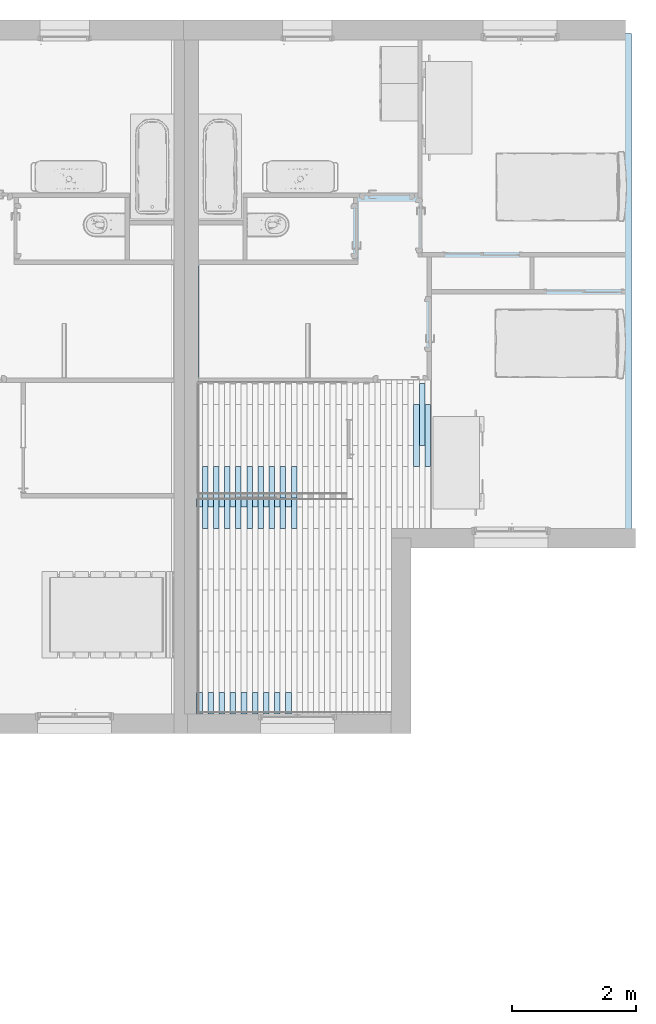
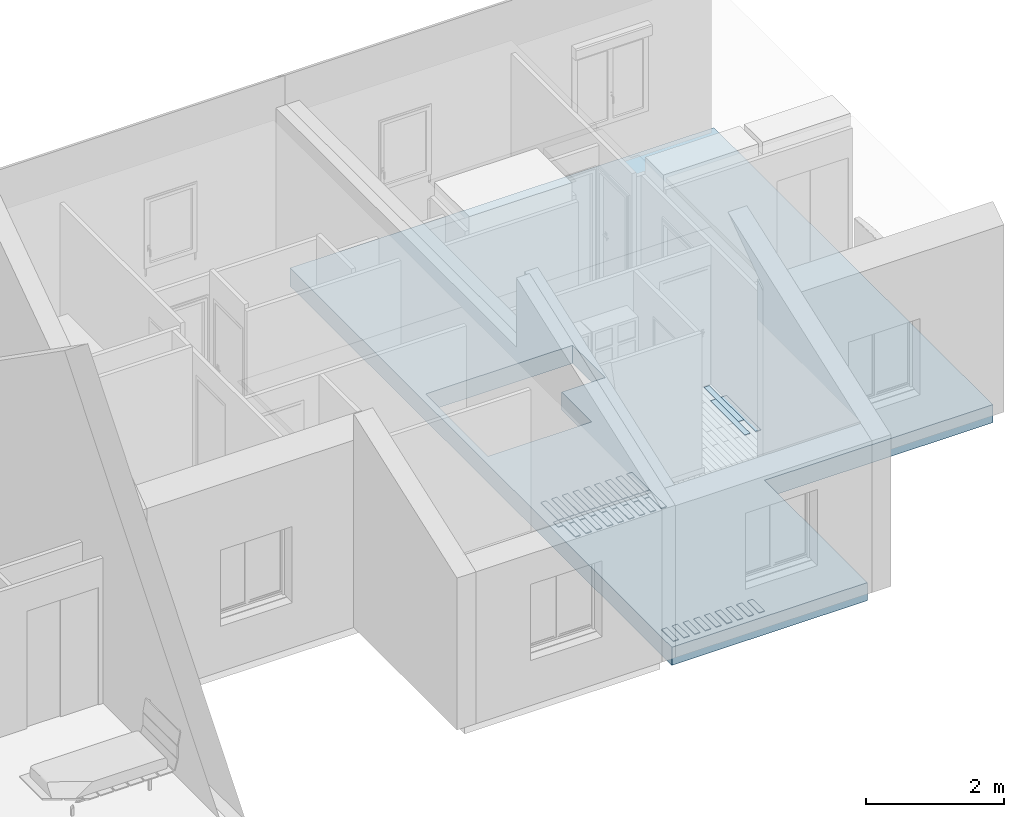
# One storey, part 5 of 61: 40 slabs, 1 opening.
"""IFC2X3 building model written with IfcOpenShell, lengths in metres."""

import ifcopenshell
import ifcopenshell.guid

model = None  # the IFC model being written
_history = None  # IfcOwnerHistory: only IFC2X3 demands one
_inside = {}  # id of a spatial element -> (the spatial element, [elements in it])
_under = {}  # id of a project, library or spatial element -> (it, [spatial elements below it])
_declared = {}  # id of a project -> (the project, [libraries it declares])
_typed = {}  # id of a type object -> (the type object, [elements of that type])
_made_of = {}  # id of a material, layer set ... -> (it, [elements and type objects made of it])


def new_model(schema):
    """Start an empty IFC model of exactly this schema.

    Asked for "IFC4X3", IfcOpenShell would pick the latest addendum, in which some entities
    have other attributes; the version numbers below select the first issue.
    IFC2X3 requires an IfcOwnerHistory on every rooted entity: one is made here for all.
    """
    global model, _history
    if schema == "IFC4X3":
        model = ifcopenshell.file(schema_version=(4, 3, 0, 0))
    else:
        model = ifcopenshell.file(schema=schema)
    _inside.clear()
    _under.clear()
    _declared.clear()
    _typed.clear()
    _made_of.clear()
    _history = None
    if model.schema == "IFC2X3":
        org = make("IfcOrganization", Name="unknown")
        user = make(
            "IfcPersonAndOrganization",
            ThePerson=make("IfcPerson", FamilyName="unknown"),
            TheOrganization=org,
        )
        app = make(
            "IfcApplication",
            ApplicationDeveloper=org,
            Version="unknown",
            ApplicationFullName="unknown",
            ApplicationIdentifier="unknown",
        )
        _history = make(
            "IfcOwnerHistory",
            OwningUser=user,
            OwningApplication=app,
            ChangeAction="ADDED",
            CreationDate=0,
        )
    return model


def make(cls, **values):
    """One entity of the class cls with the attributes given. An attribute that is None is left unset."""
    return model.create_entity(
        cls, **{name: value for name, value in values.items() if value is not None}
    )


def entity(cls, *values):
    """Any entity or typed value of the class cls, its attributes in the order of the schema. None: left unset."""
    e = model.create_entity(cls)
    for i, value in enumerate(values):
        if value is not None:
            e[i] = value
    return e


def rooted(cls, **values):
    """An entity with a GlobalId (a new one), such as an element, a storey or a relation."""
    return make(cls, GlobalId=ifcopenshell.guid.new(), OwnerHistory=_history, **values)


def si_unit(unit_type, name, prefix=None):
    """IfcSIUnit, for example si_unit("LENGTHUNIT", "METRE", prefix="MILLI")."""
    return make("IfcSIUnit", UnitType=unit_type, Prefix=prefix, Name=name)


def converted_unit(unit_type, name, factor, base, dimensions=None, offset=None):
    """IfcConversionBasedUnit, such as the inch: factor (a typed value) times the base unit."""
    return make(
        "IfcConversionBasedUnit"
        if offset is None
        else "IfcConversionBasedUnitWithOffset",
        ConversionOffset=offset,
        Dimensions=None
        if dimensions is None
        else entity("IfcDimensionalExponents", *dimensions),
        UnitType=unit_type,
        Name=name,
        ConversionFactor=make(
            "IfcMeasureWithUnit", ValueComponent=factor, UnitComponent=base
        ),
    )


def derived_unit(unit_type, elements):
    """IfcDerivedUnit: a product of units, each with its exponent."""
    return make(
        "IfcDerivedUnit",
        Elements=[
            make("IfcDerivedUnitElement", Unit=unit, Exponent=power)
            for unit, power in elements
        ],
        UnitType=unit_type,
    )


def assignment(units):
    """IfcUnitAssignment: the units of a project."""
    return None if units is None else make("IfcUnitAssignment", Units=units)


def point(xyz):
    """IfcCartesianPoint."""
    return None if xyz is None else make("IfcCartesianPoint", Coordinates=xyz)


def direction(xyz):
    """IfcDirection."""
    return None if xyz is None else make("IfcDirection", DirectionRatios=xyz)


def frame(location, z_axis=None, x_axis=None):
    """IfcAxis2Placement3D, a coordinate frame: its origin and axes. An axis left out is left unset."""
    return make(
        "IfcAxis2Placement3D",
        Location=point(location),
        Axis=direction(z_axis),
        RefDirection=direction(x_axis),
    )


def frame_2d(location, x_axis=None):
    """IfcAxis2Placement2D, a coordinate frame in the plane: its origin and x axis."""
    return make(
        "IfcAxis2Placement2D", Location=point(location), RefDirection=direction(x_axis)
    )


def origin():
    """The frame at (0, 0, 0) with its axes left unset."""
    return frame((0.0, 0.0, 0.0))


def place(relative_to, where):
    """IfcLocalPlacement: puts the frame where relative to a parent placement (None: the world)."""
    return make(
        "IfcLocalPlacement", PlacementRelTo=relative_to, RelativePlacement=where
    )


def context(
    kind, dimensions, precision=None, world=None, true_north=None, identifier=None
):
    """IfcGeometricRepresentationContext, for example the 3D "Model" context."""
    return make(
        "IfcGeometricRepresentationContext",
        ContextIdentifier=identifier,
        ContextType=kind,
        CoordinateSpaceDimension=dimensions,
        Precision=precision,
        WorldCoordinateSystem=world,
        TrueNorth=true_north,
    )


def subcontext(parent, identifier, kind, view, scale=None):
    """IfcGeometricRepresentationSubContext, for example "Body" below "Model"."""
    return make(
        "IfcGeometricRepresentationSubContext",
        ContextIdentifier=identifier,
        ContextType=kind,
        ParentContext=parent,
        TargetScale=scale,
        TargetView=view,
    )


def project(units=None, contexts=None):
    """IfcProject with its units and contexts."""
    return rooted(
        "IfcProject",
        Name="project",
        RepresentationContexts=contexts,
        UnitsInContext=assignment(units),
    )


def spatial(cls, under=None, at=None, **own):
    """A site, building, storey or space (cls), placed at a placement, below another one or the project."""
    s = rooted(cls, ObjectPlacement=at, **own)
    if under is not None:
        _under.setdefault(under.id(), (under, []))[1].append(s)
    return s


def polyline(points):
    """IfcPolyline through the points."""
    return make("IfcPolyline", Points=[point(p) for p in points])


def profile(cls, at=None, kind="AREA", **sizes):
    """A parametric profile (cls). Its sizes go by their IFC names, for example OverallWidth=200.0."""
    return make(cls, ProfileType=kind, Position=at, **sizes)


def rectangle(**sizes):
    """IfcRectangleProfileDef."""
    return profile("IfcRectangleProfileDef", **sizes)


def outline(outer, holes=None, kind="AREA"):
    """IfcArbitraryClosedProfileDef: a profile drawn as a closed curve; with holes, ...WithVoids."""
    if holes is None:
        return make("IfcArbitraryClosedProfileDef", ProfileType=kind, OuterCurve=outer)
    return make(
        "IfcArbitraryProfileDefWithVoids",
        ProfileType=kind,
        OuterCurve=outer,
        InnerCurves=holes,
    )


def extrude(swept, where, along, depth):
    """IfcExtrudedAreaSolid: the profile swept, set in the frame where, extruded along a direction by depth."""
    return make(
        "IfcExtrudedAreaSolid",
        SweptArea=swept,
        Position=where,
        ExtrudedDirection=direction(along),
        Depth=depth,
    )


def shape(context_of_items, identifier, shape_type, items):
    """IfcShapeRepresentation: the items that make up one representation, for example the "Body"."""
    return make(
        "IfcShapeRepresentation",
        ContextOfItems=context_of_items,
        RepresentationIdentifier=identifier,
        RepresentationType=shape_type,
        Items=items,
    )


def material(Name=None, Category=None):
    """IfcMaterial."""
    return make("IfcMaterial", Name=Name, Category=Category)


def layer(
    of_material, thickness, ventilated=None, Name=None, Category=None, Priority=None
):
    """IfcMaterialLayer: one layer of a wall or slab, of a material (None: an air gap)."""
    return make(
        "IfcMaterialLayer",
        Material=of_material,
        LayerThickness=thickness,
        IsVentilated=ventilated,
        Name=Name,
        Category=Category,
        Priority=Priority,
    )


def layer_set(layers, Name=None):
    """IfcMaterialLayerSet."""
    return make("IfcMaterialLayerSet", MaterialLayers=layers, LayerSetName=Name)


def layer_usage(for_layer_set, set_direction, sense, offset, extent=None):
    """IfcMaterialLayerSetUsage: how a layer set lies in its element."""
    return make(
        "IfcMaterialLayerSetUsage",
        ForLayerSet=for_layer_set,
        LayerSetDirection=set_direction,
        DirectionSense=sense,
        OffsetFromReferenceLine=offset,
        ReferenceExtent=extent,
    )


def made_of(thing, what):
    """Note that an element or type object is made of a material, layer set ...; save() writes the relation."""
    if what is not None:
        _made_of.setdefault(what.id(), (what, []))[1].append(thing)
    return thing


def type_object(cls, material=None, **own):
    """A type object (cls), such as IfcWallType, which elements share."""
    return made_of(rooted(cls, **own), material)


def element(
    cls,
    number,
    at=None,
    inside=None,
    cuts=None,
    type_object=None,
    material=None,
    context=None,
    identifier="Body",
    shape_type=None,
    held_by="IfcProductDefinitionShape",
    body=None,
    shapes=None,
    **own,
):
    """One element of the class cls, such as IfcWall. Its Tag is "e" and its number.

    at: its placement. inside: the storey or other place that contains it. cuts: it is an
    opening in that element (IfcRelVoidsElement). A single representation is given by context,
    identifier, shape_type and body (its items); several are given by shapes. held_by: the class
    of the entity that holds the representations. save() writes the other relations.
    """
    e = rooted(cls, Tag="e%d" % number, ObjectPlacement=at, **own)
    if body is not None:
        shapes = [shape(context, identifier, shape_type, body)]
    if shapes is not None:
        e.Representation = make(held_by, Representations=shapes)
    if inside is not None:
        _inside.setdefault(inside.id(), (inside, []))[1].append(e)
    if cuts is not None:
        rooted(
            "IfcRelVoidsElement", RelatingBuildingElement=cuts, RelatedOpeningElement=e
        )
    if type_object is not None:
        _typed.setdefault(type_object.id(), (type_object, []))[1].append(e)
    return made_of(e, material)


def aggregate(whole, parts):
    """IfcRelAggregates: a whole, such as a stair, and the parts it consists of."""
    return rooted("IfcRelAggregates", RelatingObject=whole, RelatedObjects=parts)


def save(model, path):
    """Write the relations noted so far, then the file.

    IfcRelAggregates (storeys below a building ...), IfcRelContainedInSpatialStructure (elements
    in a storey), IfcRelDefinesByType, IfcRelAssociatesMaterial and IfcRelDeclares: one each for
    every whole, place, type object, material and project.
    """
    for whole, parts in _under.values():
        aggregate(whole, parts)
    for where, things in _inside.values():
        rooted(
            "IfcRelContainedInSpatialStructure",
            RelatedElements=things,
            RelatingStructure=where,
        )
    for kind, things in _typed.values():
        rooted("IfcRelDefinesByType", RelatedObjects=things, RelatingType=kind)
    for what, things in _made_of.values():
        rooted("IfcRelAssociatesMaterial", RelatedObjects=things, RelatingMaterial=what)
    for by, libraries in _declared.values():
        rooted("IfcRelDeclares", RelatingContext=by, RelatedDefinitions=libraries)
    model.write(path)


model = new_model("IFC2X3")

# Units and contexts
model_context = context("Model", 3, precision=1e-05, world=origin(), true_north=direction((6.12303176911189e-17, 1.0)))
body_context = subcontext(model_context, "Body", "Model", "MODEL_VIEW")
ifc_project = project(units=[si_unit("LENGTHUNIT", "METRE"), si_unit("AREAUNIT", "SQUARE_METRE"), si_unit("VOLUMEUNIT", "CUBIC_METRE"), converted_unit("PLANEANGLEUNIT", "DEGREE", entity("IfcRatioMeasure", 0.0174532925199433), si_unit("PLANEANGLEUNIT", "RADIAN"), dimensions=[0, 0, 0, 0, 0, 0, 0]), si_unit("MASSUNIT", "GRAM", prefix="KILO"), derived_unit("MASSDENSITYUNIT", [(si_unit("MASSUNIT", "GRAM", prefix="KILO"), 1), (si_unit("LENGTHUNIT", "METRE"), -3)]), si_unit("TIMEUNIT", "SECOND"), si_unit("FREQUENCYUNIT", "HERTZ"), si_unit("THERMODYNAMICTEMPERATUREUNIT", "DEGREE_CELSIUS"), derived_unit("THERMALTRANSMITTANCEUNIT", [(si_unit("MASSUNIT", "GRAM", prefix="KILO"), 1), (si_unit("THERMODYNAMICTEMPERATUREUNIT", "KELVIN"), -1), (si_unit("TIMEUNIT", "SECOND"), -3)]), derived_unit("VOLUMETRICFLOWRATEUNIT", [(si_unit("LENGTHUNIT", "METRE"), 3), (si_unit("TIMEUNIT", "SECOND"), -1)]), si_unit("ELECTRICCURRENTUNIT", "AMPERE"), si_unit("ELECTRICVOLTAGEUNIT", "VOLT"), si_unit("POWERUNIT", "WATT"), si_unit("FORCEUNIT", "NEWTON", prefix="KILO"), si_unit("ILLUMINANCEUNIT", "LUX"), si_unit("LUMINOUSFLUXUNIT", "LUMEN"), si_unit("LUMINOUSINTENSITYUNIT", "CANDELA"), derived_unit("USERDEFINED", [(si_unit("MASSUNIT", "GRAM", prefix="KILO"), -1), (si_unit("LENGTHUNIT", "METRE"), -2), (si_unit("TIMEUNIT", "SECOND"), 3), (si_unit("LUMINOUSFLUXUNIT", "LUMEN"), 1)]), derived_unit("LINEARVELOCITYUNIT", [(si_unit("LENGTHUNIT", "METRE"), 1), (si_unit("TIMEUNIT", "SECOND"), -1)]), si_unit("PRESSUREUNIT", "PASCAL"), derived_unit("USERDEFINED", [(si_unit("LENGTHUNIT", "METRE"), -2), (si_unit("MASSUNIT", "GRAM", prefix="KILO"), 1), (si_unit("TIMEUNIT", "SECOND"), -2)])], contexts=[model_context])

# Site, building, storey
site_placement = place(None, origin())
site = spatial("IfcSite", under=ifc_project, at=site_placement, Name="Surface", CompositionType="ELEMENT")
building_placement = place(site_placement, origin())
building = spatial("IfcBuilding", under=site, at=building_placement, CompositionType="ELEMENT")
storey_placement = place(building_placement, frame((0.0, 0.0, 2.82)))
storey = spatial("IfcBuildingStorey", under=building, at=storey_placement, Name="ETAGE", CompositionType="ELEMENT", Elevation=2.82)

# Slab, opening
ifc_material_1 = material(Name="Béton")
ifc_layer_1 = layer(ifc_material_1, 0.2)
ifc_material_2 = material(Name="Isolant")
ifc_layer_2 = layer(ifc_material_2, 0.1)
ifc_material_3 = material(Name="Plastique - Blanc")
ifc_layer_3 = layer(ifc_material_3, 0.02)
ifc_layer_set_1 = layer_set([ifc_layer_1, ifc_layer_2, ifc_layer_3], Name="Sol:Dalle Béton - 20 cm  + FAUX PLAFOND")
ifc_layer_usage_1 = layer_usage(ifc_layer_set_1, "AXIS3", "POSITIVE", 0.0)
slab_type_1 = type_object("IfcSlabType", Name="Sol:Dalle Béton - 20 cm  + FAUX PLAFOND", PredefinedType="FLOOR", material=ifc_layer_set_1)
slab_1_placement = place(storey_placement, frame((83.8267857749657, 81.1575239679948, -0.3)))
slab_1 = element("IfcSlab", 1, at=slab_1_placement, inside=storey, type_object=slab_type_1, material=ifc_layer_usage_1, Name="Sol:Dalle Béton - 20 cm  + FAUX PLAFOND", ObjectType="Sol:Dalle Béton - 20 cm  + FAUX PLAFOND", PredefinedType="FLOOR", context=body_context, shape_type="SweptSolid", body=[
    extrude(outline(polyline([(-3.55413147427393, 5.545), (-3.55413147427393, -5.545), (-0.274131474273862, -5.54499999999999), (-0.274131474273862, -2.55499999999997), (3.55413147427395, -2.55499999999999), (3.55413147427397, 5.545), (-3.55413147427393, 5.545)])), frame((3.55413147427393, 5.545, 0.32)), (0.0, 0.0, -1.0), 0.32),
])
opening_placement = place(storey_placement, frame((83.8267857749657, 81.1575239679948, -0.3)))
element("IfcOpeningElement", 2, at=opening_placement, cuts=slab_1, ObjectType="Opening", context=body_context, shape_type="SweptSolid", body=[
    extrude(outline(polyline([(3.44496571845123, 1.7966805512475), (0.977465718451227, 1.7966805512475), (0.977465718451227, 0.852480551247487), (1.70746571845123, 0.852480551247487), (1.70746571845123, -0.0199999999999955), (3.44496571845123, -0.0199999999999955), (3.44496571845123, 1.7966805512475)])), frame((3.55413147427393, 5.545, 0.32), z_axis=(0.0, 0.0, -1.0), x_axis=(-1.0, 0.0, 0.0)), (0.0, 0.0, 1.0), 0.32),
])

# Slabs
ifc_material_4 = material(Name="PARQUET BAMBOU")
ifc_layer_4 = layer(ifc_material_4, 0.01)
ifc_layer_set_2 = layer_set([ifc_layer_4], Name="Sol:LAME DE BAMBOU")
ifc_layer_usage_2 = layer_usage(ifc_layer_set_2, "AXIS3", "POSITIVE", 0.0)
slab_type_2 = type_object("IfcSlabType", Name="Sol:LAME DE BAMBOU", PredefinedType="FLOOR", material=ifc_layer_set_2)
slab_2_placement = place(storey_placement, origin())
element("IfcSlab", 3, at=slab_2_placement, inside=storey, type_object=slab_type_2, material=ifc_layer_usage_2, Name="Sol:LAME DE BAMBOU", ObjectType="Sol:LAME DE BAMBOU", PredefinedType="FLOOR", context=body_context, shape_type="SweptSolid", body=[
    extrude(rectangle(XDim=0.479580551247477, YDim=0.0899999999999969, at=frame_2d((8.65973959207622e-15, 8.66320903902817e-15), x_axis=(1.0, 0.0))), frame((84.0360898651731, 84.4873142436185, 0.05), z_axis=(0.0, 0.0, -1.0), x_axis=(0.0, 1.0, 0.0)), (0.0, 0.0, 1.0), 0.00999999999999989),
])
ifc_layer_usage_3 = layer_usage(ifc_layer_set_2, "AXIS3", "POSITIVE", 0.0)
slab_type_3 = type_object("IfcSlabType", Name="Sol:LAME DE BAMBOU", PredefinedType="FLOOR", material=ifc_layer_set_2)
slab_3_placement = place(storey_placement, origin())
element("IfcSlab", 4, at=slab_3_placement, inside=storey, type_object=slab_type_3, material=ifc_layer_usage_3, Name="Sol:LAME DE BAMBOU", ObjectType="Sol:LAME DE BAMBOU", PredefinedType="FLOOR", context=body_context, shape_type="SweptSolid", body=[
    extrude(rectangle(XDim=0.339999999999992, YDim=0.0899999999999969, at=frame_2d((0.0, 8.66320903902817e-15), x_axis=(1.0, 0.0))), frame((84.1260898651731, 81.4175239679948, 0.05), z_axis=(0.0, 0.0, -1.0), x_axis=(0.0, 1.0, 0.0)), (0.0, 0.0, 1.0), 0.00999999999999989),
])
ifc_layer_usage_4 = layer_usage(ifc_layer_set_2, "AXIS3", "POSITIVE", 0.0)
slab_type_4 = type_object("IfcSlabType", Name="Sol:LAME DE BAMBOU", PredefinedType="FLOOR", material=ifc_layer_set_2)
slab_4_placement = place(storey_placement, origin())
element("IfcSlab", 5, at=slab_4_placement, inside=storey, type_object=slab_type_4, material=ifc_layer_usage_4, Name="Sol:LAME DE BAMBOU", ObjectType="Sol:LAME DE BAMBOU", PredefinedType="FLOOR", context=body_context, shape_type="SweptSolid", body=[
    extrude(rectangle(XDim=0.139570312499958, YDim=0.0899999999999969, at=frame_2d((8.65973959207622e-15, 8.66320903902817e-15), x_axis=(1.0, 0.0))), frame((84.1260898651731, 84.6573091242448, 0.05), z_axis=(0.0, 0.0, -1.0), x_axis=(0.0, 1.0, 0.0)), (0.0, 0.0, 1.0), 0.00999999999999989),
])
ifc_layer_usage_5 = layer_usage(ifc_layer_set_2, "AXIS3", "POSITIVE", 0.0)
slab_type_5 = type_object("IfcSlabType", Name="Sol:LAME DE BAMBOU", PredefinedType="FLOOR", material=ifc_layer_set_2)
slab_5_placement = place(storey_placement, origin())
element("IfcSlab", 6, at=slab_5_placement, inside=storey, type_object=slab_type_5, material=ifc_layer_usage_5, Name="Sol:LAME DE BAMBOU", ObjectType="Sol:LAME DE BAMBOU", PredefinedType="FLOOR", context=body_context, shape_type="SweptSolid", body=[
    extrude(rectangle(XDim=0.479580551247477, YDim=0.0899999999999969, at=frame_2d((8.65973959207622e-15, -8.66320903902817e-15), x_axis=(1.0, 0.0))), frame((84.2160898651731, 84.4873142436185, 0.05), z_axis=(0.0, 0.0, -1.0), x_axis=(0.0, 1.0, 0.0)), (0.0, 0.0, 1.0), 0.00999999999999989),
])
ifc_layer_usage_6 = layer_usage(ifc_layer_set_2, "AXIS3", "POSITIVE", 0.0)
slab_type_6 = type_object("IfcSlabType", Name="Sol:LAME DE BAMBOU", PredefinedType="FLOOR", material=ifc_layer_set_2)
slab_6_placement = place(storey_placement, origin())
element("IfcSlab", 7, at=slab_6_placement, inside=storey, type_object=slab_type_6, material=ifc_layer_usage_6, Name="Sol:LAME DE BAMBOU", ObjectType="Sol:LAME DE BAMBOU", PredefinedType="FLOOR", context=body_context, shape_type="SweptSolid", body=[
    extrude(rectangle(XDim=0.339999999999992, YDim=0.0899999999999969, at=frame_2d((0.0, 8.66320903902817e-15), x_axis=(1.0, 0.0))), frame((84.3060898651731, 81.4175239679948, 0.05), z_axis=(0.0, 0.0, -1.0), x_axis=(0.0, 1.0, 0.0)), (0.0, 0.0, 1.0), 0.00999999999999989),
])
ifc_layer_usage_7 = layer_usage(ifc_layer_set_2, "AXIS3", "POSITIVE", 0.0)
slab_type_7 = type_object("IfcSlabType", Name="Sol:LAME DE BAMBOU", PredefinedType="FLOOR", material=ifc_layer_set_2)
slab_7_placement = place(storey_placement, origin())
element("IfcSlab", 8, at=slab_7_placement, inside=storey, type_object=slab_type_7, material=ifc_layer_usage_7, Name="Sol:LAME DE BAMBOU", ObjectType="Sol:LAME DE BAMBOU", PredefinedType="FLOOR", context=body_context, shape_type="SweptSolid", body=[
    extrude(rectangle(XDim=0.139570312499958, YDim=0.0899999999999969, at=frame_2d((8.65973959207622e-15, 8.66320903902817e-15), x_axis=(1.0, 0.0))), frame((84.3060898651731, 84.6573091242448, 0.05), z_axis=(0.0, 0.0, -1.0), x_axis=(0.0, 1.0, 0.0)), (0.0, 0.0, 1.0), 0.00999999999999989),
])
ifc_layer_usage_8 = layer_usage(ifc_layer_set_2, "AXIS3", "POSITIVE", 0.0)
slab_type_8 = type_object("IfcSlabType", Name="Sol:LAME DE BAMBOU", PredefinedType="FLOOR", material=ifc_layer_set_2)
slab_8_placement = place(storey_placement, origin())
element("IfcSlab", 9, at=slab_8_placement, inside=storey, type_object=slab_type_8, material=ifc_layer_usage_8, Name="Sol:LAME DE BAMBOU", ObjectType="Sol:LAME DE BAMBOU", PredefinedType="FLOOR", context=body_context, shape_type="SweptSolid", body=[
    extrude(rectangle(XDim=0.479580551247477, YDim=0.0899999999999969, at=frame_2d((8.65973959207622e-15, 8.66320903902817e-15), x_axis=(1.0, 0.0))), frame((84.3960898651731, 84.4873142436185, 0.05), z_axis=(0.0, 0.0, -1.0), x_axis=(0.0, 1.0, 0.0)), (0.0, 0.0, 1.0), 0.00999999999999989),
])
ifc_layer_usage_9 = layer_usage(ifc_layer_set_2, "AXIS3", "POSITIVE", 0.0)
slab_type_9 = type_object("IfcSlabType", Name="Sol:LAME DE BAMBOU", PredefinedType="FLOOR", material=ifc_layer_set_2)
slab_9_placement = place(storey_placement, origin())
element("IfcSlab", 10, at=slab_9_placement, inside=storey, type_object=slab_type_9, material=ifc_layer_usage_9, Name="Sol:LAME DE BAMBOU", ObjectType="Sol:LAME DE BAMBOU", PredefinedType="FLOOR", context=body_context, shape_type="SweptSolid", body=[
    extrude(rectangle(XDim=0.339999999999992, YDim=0.0899999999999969, at=frame_2d((0.0, 8.66320903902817e-15), x_axis=(1.0, 0.0))), frame((84.4860898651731, 81.4175239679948, 0.05), z_axis=(0.0, 0.0, -1.0), x_axis=(0.0, 1.0, 0.0)), (0.0, 0.0, 1.0), 0.00999999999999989),
])
ifc_layer_usage_10 = layer_usage(ifc_layer_set_2, "AXIS3", "POSITIVE", 0.0)
slab_type_10 = type_object("IfcSlabType", Name="Sol:LAME DE BAMBOU", PredefinedType="FLOOR", material=ifc_layer_set_2)
slab_10_placement = place(storey_placement, origin())
element("IfcSlab", 11, at=slab_10_placement, inside=storey, type_object=slab_type_10, material=ifc_layer_usage_10, Name="Sol:LAME DE BAMBOU", ObjectType="Sol:LAME DE BAMBOU", PredefinedType="FLOOR", context=body_context, shape_type="SweptSolid", body=[
    extrude(rectangle(XDim=0.139570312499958, YDim=0.0899999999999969, at=frame_2d((8.65973959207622e-15, 8.66320903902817e-15), x_axis=(1.0, 0.0))), frame((84.4860898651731, 84.6573091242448, 0.05), z_axis=(0.0, 0.0, -1.0), x_axis=(0.0, 1.0, 0.0)), (0.0, 0.0, 1.0), 0.00999999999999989),
])
ifc_layer_usage_11 = layer_usage(ifc_layer_set_2, "AXIS3", "POSITIVE", 0.0)
slab_type_11 = type_object("IfcSlabType", Name="Sol:LAME DE BAMBOU", PredefinedType="FLOOR", material=ifc_layer_set_2)
slab_11_placement = place(storey_placement, origin())
element("IfcSlab", 12, at=slab_11_placement, inside=storey, type_object=slab_type_11, material=ifc_layer_usage_11, Name="Sol:LAME DE BAMBOU", ObjectType="Sol:LAME DE BAMBOU", PredefinedType="FLOOR", context=body_context, shape_type="SweptSolid", body=[
    extrude(rectangle(XDim=0.479580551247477, YDim=0.0899999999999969, at=frame_2d((8.65973959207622e-15, -8.66320903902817e-15), x_axis=(1.0, 0.0))), frame((84.5760898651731, 84.4873142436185, 0.05), z_axis=(0.0, 0.0, -1.0), x_axis=(0.0, 1.0, 0.0)), (0.0, 0.0, 1.0), 0.00999999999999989),
])
ifc_layer_usage_12 = layer_usage(ifc_layer_set_2, "AXIS3", "POSITIVE", 0.0)
slab_type_12 = type_object("IfcSlabType", Name="Sol:LAME DE BAMBOU", PredefinedType="FLOOR", material=ifc_layer_set_2)
slab_12_placement = place(storey_placement, origin())
element("IfcSlab", 13, at=slab_12_placement, inside=storey, type_object=slab_type_12, material=ifc_layer_usage_12, Name="Sol:LAME DE BAMBOU", ObjectType="Sol:LAME DE BAMBOU", PredefinedType="FLOOR", context=body_context, shape_type="SweptSolid", body=[
    extrude(rectangle(XDim=0.339999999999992, YDim=0.0899999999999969, at=frame_2d((0.0, 8.66320903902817e-15), x_axis=(1.0, 0.0))), frame((84.6660898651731, 81.4175239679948, 0.05), z_axis=(0.0, 0.0, -1.0), x_axis=(0.0, 1.0, 0.0)), (0.0, 0.0, 1.0), 0.00999999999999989),
])
ifc_layer_usage_13 = layer_usage(ifc_layer_set_2, "AXIS3", "POSITIVE", 0.0)
slab_type_13 = type_object("IfcSlabType", Name="Sol:LAME DE BAMBOU", PredefinedType="FLOOR", material=ifc_layer_set_2)
slab_13_placement = place(storey_placement, origin())
element("IfcSlab", 14, at=slab_13_placement, inside=storey, type_object=slab_type_13, material=ifc_layer_usage_13, Name="Sol:LAME DE BAMBOU", ObjectType="Sol:LAME DE BAMBOU", PredefinedType="FLOOR", context=body_context, shape_type="SweptSolid", body=[
    extrude(rectangle(XDim=0.139570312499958, YDim=0.0899999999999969, at=frame_2d((8.65973959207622e-15, 8.66320903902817e-15), x_axis=(1.0, 0.0))), frame((84.6660898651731, 84.6573091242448, 0.05), z_axis=(0.0, 0.0, -1.0), x_axis=(0.0, 1.0, 0.0)), (0.0, 0.0, 1.0), 0.00999999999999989),
])
ifc_layer_usage_14 = layer_usage(ifc_layer_set_2, "AXIS3", "POSITIVE", 0.0)
slab_type_14 = type_object("IfcSlabType", Name="Sol:LAME DE BAMBOU", PredefinedType="FLOOR", material=ifc_layer_set_2)
slab_14_placement = place(storey_placement, origin())
element("IfcSlab", 15, at=slab_14_placement, inside=storey, type_object=slab_type_14, material=ifc_layer_usage_14, Name="Sol:LAME DE BAMBOU", ObjectType="Sol:LAME DE BAMBOU", PredefinedType="FLOOR", context=body_context, shape_type="SweptSolid", body=[
    extrude(rectangle(XDim=0.479580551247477, YDim=0.0899999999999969, at=frame_2d((8.65973959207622e-15, 8.66320903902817e-15), x_axis=(1.0, 0.0))), frame((84.7560898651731, 84.4873142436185, 0.05), z_axis=(0.0, 0.0, -1.0), x_axis=(0.0, 1.0, 0.0)), (0.0, 0.0, 1.0), 0.00999999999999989),
])
ifc_layer_usage_15 = layer_usage(ifc_layer_set_2, "AXIS3", "POSITIVE", 0.0)
slab_type_15 = type_object("IfcSlabType", Name="Sol:LAME DE BAMBOU", PredefinedType="FLOOR", material=ifc_layer_set_2)
slab_15_placement = place(storey_placement, origin())
element("IfcSlab", 16, at=slab_15_placement, inside=storey, type_object=slab_type_15, material=ifc_layer_usage_15, Name="Sol:LAME DE BAMBOU", ObjectType="Sol:LAME DE BAMBOU", PredefinedType="FLOOR", context=body_context, shape_type="SweptSolid", body=[
    extrude(rectangle(XDim=0.339999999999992, YDim=0.0899999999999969, at=frame_2d((0.0, 8.66320903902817e-15), x_axis=(1.0, 0.0))), frame((84.8460898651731, 81.4175239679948, 0.05), z_axis=(0.0, 0.0, -1.0), x_axis=(0.0, 1.0, 0.0)), (0.0, 0.0, 1.0), 0.00999999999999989),
])
ifc_layer_usage_16 = layer_usage(ifc_layer_set_2, "AXIS3", "POSITIVE", 0.0)
slab_type_16 = type_object("IfcSlabType", Name="Sol:LAME DE BAMBOU", PredefinedType="FLOOR", material=ifc_layer_set_2)
slab_16_placement = place(storey_placement, origin())
element("IfcSlab", 17, at=slab_16_placement, inside=storey, type_object=slab_type_16, material=ifc_layer_usage_16, Name="Sol:LAME DE BAMBOU", ObjectType="Sol:LAME DE BAMBOU", PredefinedType="FLOOR", context=body_context, shape_type="SweptSolid", body=[
    extrude(rectangle(XDim=0.139570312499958, YDim=0.0899999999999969, at=frame_2d((8.65973959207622e-15, 8.66320903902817e-15), x_axis=(1.0, 0.0))), frame((84.8460898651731, 84.6573091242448, 0.05), z_axis=(0.0, 0.0, -1.0), x_axis=(0.0, 1.0, 0.0)), (0.0, 0.0, 1.0), 0.00999999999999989),
])
ifc_layer_usage_17 = layer_usage(ifc_layer_set_2, "AXIS3", "POSITIVE", 0.0)
slab_type_17 = type_object("IfcSlabType", Name="Sol:LAME DE BAMBOU", PredefinedType="FLOOR", material=ifc_layer_set_2)
slab_17_placement = place(storey_placement, origin())
element("IfcSlab", 18, at=slab_17_placement, inside=storey, type_object=slab_type_17, material=ifc_layer_usage_17, Name="Sol:LAME DE BAMBOU", ObjectType="Sol:LAME DE BAMBOU", PredefinedType="FLOOR", context=body_context, shape_type="SweptSolid", body=[
    extrude(rectangle(XDim=0.479580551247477, YDim=0.0899999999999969, at=frame_2d((8.65973959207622e-15, -8.66320903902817e-15), x_axis=(1.0, 0.0))), frame((84.9360898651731, 84.4873142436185, 0.05), z_axis=(0.0, 0.0, -1.0), x_axis=(0.0, 1.0, 0.0)), (0.0, 0.0, 1.0), 0.00999999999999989),
])
ifc_layer_usage_18 = layer_usage(ifc_layer_set_2, "AXIS3", "POSITIVE", 0.0)
slab_type_18 = type_object("IfcSlabType", Name="Sol:LAME DE BAMBOU", PredefinedType="FLOOR", material=ifc_layer_set_2)
slab_18_placement = place(storey_placement, origin())
element("IfcSlab", 19, at=slab_18_placement, inside=storey, type_object=slab_type_18, material=ifc_layer_usage_18, Name="Sol:LAME DE BAMBOU", ObjectType="Sol:LAME DE BAMBOU", PredefinedType="FLOOR", context=body_context, shape_type="SweptSolid", body=[
    extrude(rectangle(XDim=0.339999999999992, YDim=0.0899999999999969, at=frame_2d((0.0, 8.66320903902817e-15), x_axis=(1.0, 0.0))), frame((85.026089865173, 81.4175239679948, 0.05), z_axis=(0.0, 0.0, -1.0), x_axis=(0.0, 1.0, 0.0)), (0.0, 0.0, 1.0), 0.00999999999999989),
])
ifc_layer_usage_19 = layer_usage(ifc_layer_set_2, "AXIS3", "POSITIVE", 0.0)
slab_type_19 = type_object("IfcSlabType", Name="Sol:LAME DE BAMBOU", PredefinedType="FLOOR", material=ifc_layer_set_2)
slab_19_placement = place(storey_placement, origin())
element("IfcSlab", 20, at=slab_19_placement, inside=storey, type_object=slab_type_19, material=ifc_layer_usage_19, Name="Sol:LAME DE BAMBOU", ObjectType="Sol:LAME DE BAMBOU", PredefinedType="FLOOR", context=body_context, shape_type="SweptSolid", body=[
    extrude(rectangle(XDim=0.139570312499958, YDim=0.0899999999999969, at=frame_2d((8.65973959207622e-15, 8.66320903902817e-15), x_axis=(1.0, 0.0))), frame((85.026089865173, 84.6573091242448, 0.05), z_axis=(0.0, 0.0, -1.0), x_axis=(0.0, 1.0, 0.0)), (0.0, 0.0, 1.0), 0.00999999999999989),
])
ifc_layer_usage_20 = layer_usage(ifc_layer_set_2, "AXIS3", "POSITIVE", 0.0)
slab_type_20 = type_object("IfcSlabType", Name="Sol:LAME DE BAMBOU", PredefinedType="FLOOR", material=ifc_layer_set_2)
slab_20_placement = place(storey_placement, origin())
element("IfcSlab", 21, at=slab_20_placement, inside=storey, type_object=slab_type_20, material=ifc_layer_usage_20, Name="Sol:LAME DE BAMBOU", ObjectType="Sol:LAME DE BAMBOU", PredefinedType="FLOOR", context=body_context, shape_type="SweptSolid", body=[
    extrude(rectangle(XDim=0.479580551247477, YDim=0.0899999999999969, at=frame_2d((8.65973959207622e-15, 8.66320903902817e-15), x_axis=(1.0, 0.0))), frame((85.116089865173, 84.4873142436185, 0.05), z_axis=(0.0, 0.0, -1.0), x_axis=(0.0, 1.0, 0.0)), (0.0, 0.0, 1.0), 0.00999999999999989),
])
ifc_layer_usage_21 = layer_usage(ifc_layer_set_2, "AXIS3", "POSITIVE", 0.0)
slab_type_21 = type_object("IfcSlabType", Name="Sol:LAME DE BAMBOU", PredefinedType="FLOOR", material=ifc_layer_set_2)
slab_21_placement = place(storey_placement, origin())
element("IfcSlab", 22, at=slab_21_placement, inside=storey, type_object=slab_type_21, material=ifc_layer_usage_21, Name="Sol:LAME DE BAMBOU", ObjectType="Sol:LAME DE BAMBOU", PredefinedType="FLOOR", context=body_context, shape_type="SweptSolid", body=[
    extrude(rectangle(XDim=0.339999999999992, YDim=0.0899999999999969, at=frame_2d((0.0, 8.66320903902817e-15), x_axis=(1.0, 0.0))), frame((85.206089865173, 81.4175239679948, 0.05), z_axis=(0.0, 0.0, -1.0), x_axis=(0.0, 1.0, 0.0)), (0.0, 0.0, 1.0), 0.00999999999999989),
])
ifc_layer_usage_22 = layer_usage(ifc_layer_set_2, "AXIS3", "POSITIVE", 0.0)
slab_type_22 = type_object("IfcSlabType", Name="Sol:LAME DE BAMBOU", PredefinedType="FLOOR", material=ifc_layer_set_2)
slab_22_placement = place(storey_placement, origin())
element("IfcSlab", 23, at=slab_22_placement, inside=storey, type_object=slab_type_22, material=ifc_layer_usage_22, Name="Sol:LAME DE BAMBOU", ObjectType="Sol:LAME DE BAMBOU", PredefinedType="FLOOR", context=body_context, shape_type="SweptSolid", body=[
    extrude(rectangle(XDim=0.139570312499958, YDim=0.0899999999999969, at=frame_2d((8.65973959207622e-15, 8.66320903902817e-15), x_axis=(1.0, 0.0))), frame((85.206089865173, 84.6573091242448, 0.05), z_axis=(0.0, 0.0, -1.0), x_axis=(0.0, 1.0, 0.0)), (0.0, 0.0, 1.0), 0.00999999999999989),
])
ifc_layer_usage_23 = layer_usage(ifc_layer_set_2, "AXIS3", "POSITIVE", 0.0)
slab_type_23 = type_object("IfcSlabType", Name="Sol:LAME DE BAMBOU", PredefinedType="FLOOR", material=ifc_layer_set_2)
slab_23_placement = place(storey_placement, origin())
element("IfcSlab", 24, at=slab_23_placement, inside=storey, type_object=slab_type_23, material=ifc_layer_usage_23, Name="Sol:LAME DE BAMBOU", ObjectType="Sol:LAME DE BAMBOU", PredefinedType="FLOOR", context=body_context, shape_type="SweptSolid", body=[
    extrude(rectangle(XDim=0.479580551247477, YDim=0.0899999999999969, at=frame_2d((8.65973959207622e-15, -8.66320903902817e-15), x_axis=(1.0, 0.0))), frame((85.2960898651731, 84.4873142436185, 0.05), z_axis=(0.0, 0.0, -1.0), x_axis=(0.0, 1.0, 0.0)), (0.0, 0.0, 1.0), 0.00999999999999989),
])
ifc_layer_usage_24 = layer_usage(ifc_layer_set_2, "AXIS3", "POSITIVE", 0.0)
slab_type_24 = type_object("IfcSlabType", Name="Sol:LAME DE BAMBOU", PredefinedType="FLOOR", material=ifc_layer_set_2)
slab_24_placement = place(storey_placement, origin())
element("IfcSlab", 25, at=slab_24_placement, inside=storey, type_object=slab_type_24, material=ifc_layer_usage_24, Name="Sol:LAME DE BAMBOU", ObjectType="Sol:LAME DE BAMBOU", PredefinedType="FLOOR", context=body_context, shape_type="SweptSolid", body=[
    extrude(rectangle(XDim=0.339999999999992, YDim=0.0899999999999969, at=frame_2d((0.0, 8.66320903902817e-15), x_axis=(1.0, 0.0))), frame((85.386089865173, 81.4175239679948, 0.05), z_axis=(0.0, 0.0, -1.0), x_axis=(0.0, 1.0, 0.0)), (0.0, 0.0, 1.0), 0.00999999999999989),
])
ifc_layer_usage_25 = layer_usage(ifc_layer_set_2, "AXIS3", "POSITIVE", 0.0)
slab_type_25 = type_object("IfcSlabType", Name="Sol:LAME DE BAMBOU", PredefinedType="FLOOR", material=ifc_layer_set_2)
slab_25_placement = place(storey_placement, origin())
element("IfcSlab", 26, at=slab_25_placement, inside=storey, type_object=slab_type_25, material=ifc_layer_usage_25, Name="Sol:LAME DE BAMBOU", ObjectType="Sol:LAME DE BAMBOU", PredefinedType="FLOOR", context=body_context, shape_type="SweptSolid", body=[
    extrude(rectangle(XDim=0.139570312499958, YDim=0.0899999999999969, at=frame_2d((8.65973959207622e-15, 8.66320903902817e-15), x_axis=(1.0, 0.0))), frame((85.386089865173, 84.6573091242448, 0.05), z_axis=(0.0, 0.0, -1.0), x_axis=(0.0, 1.0, 0.0)), (0.0, 0.0, 1.0), 0.00999999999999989),
])
ifc_layer_usage_26 = layer_usage(ifc_layer_set_2, "AXIS3", "POSITIVE", 0.0)
slab_type_26 = type_object("IfcSlabType", Name="Sol:LAME DE BAMBOU", PredefinedType="FLOOR", material=ifc_layer_set_2)
slab_26_placement = place(storey_placement, origin())
element("IfcSlab", 27, at=slab_26_placement, inside=storey, type_object=slab_type_26, material=ifc_layer_usage_26, Name="Sol:LAME DE BAMBOU", ObjectType="Sol:LAME DE BAMBOU", PredefinedType="FLOOR", context=body_context, shape_type="SweptSolid", body=[
    extrude(rectangle(XDim=0.479580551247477, YDim=0.0899999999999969, at=frame_2d((8.65973959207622e-15, 8.66320903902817e-15), x_axis=(1.0, 0.0))), frame((85.476089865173, 84.4873142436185, 0.05), z_axis=(0.0, 0.0, -1.0), x_axis=(0.0, 1.0, 0.0)), (0.0, 0.0, 1.0), 0.00999999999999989),
])
ifc_layer_usage_27 = layer_usage(ifc_layer_set_2, "AXIS3", "POSITIVE", 0.0)
slab_type_27 = type_object("IfcSlabType", Name="Sol:LAME DE BAMBOU", PredefinedType="FLOOR", material=ifc_layer_set_2)
slab_27_placement = place(storey_placement, origin())
element("IfcSlab", 28, at=slab_27_placement, inside=storey, type_object=slab_type_27, material=ifc_layer_usage_27, Name="Sol:LAME DE BAMBOU", ObjectType="Sol:LAME DE BAMBOU", PredefinedType="FLOOR", context=body_context, shape_type="SweptSolid", body=[
    extrude(rectangle(XDim=0.999999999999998, YDim=0.0899999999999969, at=frame_2d((8.68749516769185e-15, 8.66320903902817e-15), x_axis=(1.0, 0.0))), frame((87.4561607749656, 85.7475239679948, 0.05), z_axis=(0.0, 0.0, -1.0), x_axis=(0.0, 1.0, 0.0)), (0.0, 0.0, 1.0), 0.00999999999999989),
])
ifc_layer_usage_28 = layer_usage(ifc_layer_set_2, "AXIS3", "POSITIVE", 0.0)
slab_type_28 = type_object("IfcSlabType", Name="Sol:LAME DE BAMBOU", PredefinedType="FLOOR", material=ifc_layer_set_2)
slab_28_placement = place(storey_placement, origin())
element("IfcSlab", 29, at=slab_28_placement, inside=storey, type_object=slab_type_28, material=ifc_layer_usage_28, Name="Sol:LAME DE BAMBOU", ObjectType="Sol:LAME DE BAMBOU", PredefinedType="FLOOR", context=body_context, shape_type="SweptSolid", body=[
    extrude(rectangle(XDim=0.999999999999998, YDim=0.0899999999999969, at=frame_2d((8.68749516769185e-15, 8.66320903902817e-15), x_axis=(1.0, 0.0))), frame((87.5461607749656, 86.0875239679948, 0.05), z_axis=(0.0, 0.0, -1.0), x_axis=(0.0, 1.0, 0.0)), (0.0, 0.0, 1.0), 0.00999999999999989),
])
ifc_layer_usage_29 = layer_usage(ifc_layer_set_2, "AXIS3", "POSITIVE", 0.0)
slab_type_29 = type_object("IfcSlabType", Name="Sol:LAME DE BAMBOU", PredefinedType="FLOOR", material=ifc_layer_set_2)
slab_29_placement = place(storey_placement, origin())
element("IfcSlab", 30, at=slab_29_placement, inside=storey, type_object=slab_type_29, material=ifc_layer_usage_29, Name="Sol:LAME DE BAMBOU", ObjectType="Sol:LAME DE BAMBOU", PredefinedType="FLOOR", context=body_context, shape_type="SweptSolid", body=[
    extrude(rectangle(XDim=0.999999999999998, YDim=0.0899999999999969, at=frame_2d((8.68749516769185e-15, 8.66320903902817e-15), x_axis=(1.0, 0.0))), frame((87.6361607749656, 85.7475239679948, 0.05), z_axis=(0.0, 0.0, -1.0), x_axis=(0.0, 1.0, 0.0)), (0.0, 0.0, 1.0), 0.00999999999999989),
])
ifc_layer_usage_30 = layer_usage(ifc_layer_set_2, "AXIS3", "POSITIVE", 0.0)
slab_type_30 = type_object("IfcSlabType", Name="Sol:LAME DE BAMBOU", PredefinedType="FLOOR", material=ifc_layer_set_2)
slab_30_placement = place(storey_placement, origin())
element("IfcSlab", 31, at=slab_30_placement, inside=storey, type_object=slab_type_30, material=ifc_layer_usage_30, Name="Sol:LAME DE BAMBOU", ObjectType="Sol:LAME DE BAMBOU", PredefinedType="FLOOR", context=body_context, shape_type="SweptSolid", body=[
    extrude(rectangle(XDim=0.339999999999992, YDim=0.0899999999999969, at=frame_2d((0.0, 8.66320903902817e-15), x_axis=(1.0, 0.0))), frame((83.9460898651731, 81.4175239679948, 0.05), z_axis=(0.0, 0.0, -1.0), x_axis=(0.0, 1.0, 0.0)), (0.0, 0.0, 1.0), 0.00999999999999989),
])
ifc_layer_usage_31 = layer_usage(ifc_layer_set_2, "AXIS3", "POSITIVE", 0.0)
slab_type_31 = type_object("IfcSlabType", Name="Sol:LAME DE BAMBOU", PredefinedType="FLOOR", material=ifc_layer_set_2)
slab_31_placement = place(storey_placement, origin())
element("IfcSlab", 32, at=slab_31_placement, inside=storey, type_object=slab_type_31, material=ifc_layer_usage_31, Name="Sol:LAME DE BAMBOU", ObjectType="Sol:LAME DE BAMBOU", PredefinedType="FLOOR", context=body_context, shape_type="SweptSolid", body=[
    extrude(rectangle(XDim=0.139570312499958, YDim=0.0899999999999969, at=frame_2d((8.65973959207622e-15, 8.66320903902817e-15), x_axis=(1.0, 0.0))), frame((83.9460898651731, 84.6573091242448, 0.05), z_axis=(0.0, 0.0, -1.0), x_axis=(0.0, 1.0, 0.0)), (0.0, 0.0, 1.0), 0.00999999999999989),
])
ifc_layer_usage_32 = layer_usage(ifc_layer_set_2, "AXIS3", "POSITIVE", 0.0)
slab_type_32 = type_object("IfcSlabType", Name="Sol:LAME DE BAMBOU", PredefinedType="FLOOR", material=ifc_layer_set_2)
slab_32_placement = place(storey_placement, origin())
element("IfcSlab", 33, at=slab_32_placement, inside=storey, type_object=slab_type_32, material=ifc_layer_usage_32, Name="Sol:LAME DE BAMBOU", ObjectType="Sol:LAME DE BAMBOU", PredefinedType="FLOOR", context=body_context, shape_type="SweptSolid", body=[
    extrude(rectangle(XDim=0.510000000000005, YDim=0.0899999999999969, at=frame_2d((-8.65973959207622e-15, 8.66320903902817e-15), x_axis=(1.0, 0.0))), frame((85.4760898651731, 84.9925239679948, 0.05), z_axis=(0.0, 0.0, -1.0), x_axis=(0.0, 1.0, 0.0)), (0.0, 0.0, 1.0), 0.00999999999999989),
])
ifc_layer_usage_33 = layer_usage(ifc_layer_set_2, "AXIS3", "POSITIVE", 0.0)
slab_type_33 = type_object("IfcSlabType", Name="Sol:LAME DE BAMBOU", PredefinedType="FLOOR", material=ifc_layer_set_2)
slab_33_placement = place(storey_placement, origin())
element("IfcSlab", 34, at=slab_33_placement, inside=storey, type_object=slab_type_33, material=ifc_layer_usage_33, Name="Sol:LAME DE BAMBOU", ObjectType="Sol:LAME DE BAMBOU", PredefinedType="FLOOR", context=body_context, shape_type="SweptSolid", body=[
    extrude(rectangle(XDim=0.510000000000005, YDim=0.0899999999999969, at=frame_2d((-8.65973959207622e-15, 8.66320903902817e-15), x_axis=(1.0, 0.0))), frame((85.2960898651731, 84.9925239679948, 0.05), z_axis=(0.0, 0.0, -1.0), x_axis=(0.0, 1.0, 0.0)), (0.0, 0.0, 1.0), 0.00999999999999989),
])
ifc_layer_usage_34 = layer_usage(ifc_layer_set_2, "AXIS3", "POSITIVE", 0.0)
slab_type_34 = type_object("IfcSlabType", Name="Sol:LAME DE BAMBOU", PredefinedType="FLOOR", material=ifc_layer_set_2)
slab_34_placement = place(storey_placement, origin())
element("IfcSlab", 35, at=slab_34_placement, inside=storey, type_object=slab_type_34, material=ifc_layer_usage_34, Name="Sol:LAME DE BAMBOU", ObjectType="Sol:LAME DE BAMBOU", PredefinedType="FLOOR", context=body_context, shape_type="SweptSolid", body=[
    extrude(rectangle(XDim=0.510000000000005, YDim=0.0899999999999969, at=frame_2d((-8.65973959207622e-15, 8.66320903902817e-15), x_axis=(1.0, 0.0))), frame((85.1160898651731, 84.9925239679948, 0.05), z_axis=(0.0, 0.0, -1.0), x_axis=(0.0, 1.0, 0.0)), (0.0, 0.0, 1.0), 0.00999999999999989),
])
ifc_layer_usage_35 = layer_usage(ifc_layer_set_2, "AXIS3", "POSITIVE", 0.0)
slab_type_35 = type_object("IfcSlabType", Name="Sol:LAME DE BAMBOU", PredefinedType="FLOOR", material=ifc_layer_set_2)
slab_35_placement = place(storey_placement, origin())
element("IfcSlab", 36, at=slab_35_placement, inside=storey, type_object=slab_type_35, material=ifc_layer_usage_35, Name="Sol:LAME DE BAMBOU", ObjectType="Sol:LAME DE BAMBOU", PredefinedType="FLOOR", context=body_context, shape_type="SweptSolid", body=[
    extrude(rectangle(XDim=0.510000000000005, YDim=0.0899999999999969, at=frame_2d((-8.65973959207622e-15, 8.66320903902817e-15), x_axis=(1.0, 0.0))), frame((84.9360898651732, 84.9925239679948, 0.05), z_axis=(0.0, 0.0, -1.0), x_axis=(0.0, 1.0, 0.0)), (0.0, 0.0, 1.0), 0.00999999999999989),
])
ifc_layer_usage_36 = layer_usage(ifc_layer_set_2, "AXIS3", "POSITIVE", 0.0)
slab_type_36 = type_object("IfcSlabType", Name="Sol:LAME DE BAMBOU", PredefinedType="FLOOR", material=ifc_layer_set_2)
slab_36_placement = place(storey_placement, origin())
element("IfcSlab", 37, at=slab_36_placement, inside=storey, type_object=slab_type_36, material=ifc_layer_usage_36, Name="Sol:LAME DE BAMBOU", ObjectType="Sol:LAME DE BAMBOU", PredefinedType="FLOOR", context=body_context, shape_type="SweptSolid", body=[
    extrude(rectangle(XDim=0.510000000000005, YDim=0.0899999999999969, at=frame_2d((-8.65973959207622e-15, -8.66320903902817e-15), x_axis=(1.0, 0.0))), frame((84.7560898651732, 84.9925239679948, 0.05), z_axis=(0.0, 0.0, -1.0), x_axis=(0.0, 1.0, 0.0)), (0.0, 0.0, 1.0), 0.00999999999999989),
])
ifc_layer_usage_37 = layer_usage(ifc_layer_set_2, "AXIS3", "POSITIVE", 0.0)
slab_type_37 = type_object("IfcSlabType", Name="Sol:LAME DE BAMBOU", PredefinedType="FLOOR", material=ifc_layer_set_2)
slab_37_placement = place(storey_placement, origin())
element("IfcSlab", 38, at=slab_37_placement, inside=storey, type_object=slab_type_37, material=ifc_layer_usage_37, Name="Sol:LAME DE BAMBOU", ObjectType="Sol:LAME DE BAMBOU", PredefinedType="FLOOR", context=body_context, shape_type="SweptSolid", body=[
    extrude(rectangle(XDim=0.510000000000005, YDim=0.0899999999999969, at=frame_2d((-8.65973959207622e-15, 8.66320903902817e-15), x_axis=(1.0, 0.0))), frame((84.5760898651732, 84.9925239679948, 0.05), z_axis=(0.0, 0.0, -1.0), x_axis=(0.0, 1.0, 0.0)), (0.0, 0.0, 1.0), 0.00999999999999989),
])
ifc_layer_usage_38 = layer_usage(ifc_layer_set_2, "AXIS3", "POSITIVE", 0.0)
slab_type_38 = type_object("IfcSlabType", Name="Sol:LAME DE BAMBOU", PredefinedType="FLOOR", material=ifc_layer_set_2)
slab_38_placement = place(storey_placement, origin())
element("IfcSlab", 39, at=slab_38_placement, inside=storey, type_object=slab_type_38, material=ifc_layer_usage_38, Name="Sol:LAME DE BAMBOU", ObjectType="Sol:LAME DE BAMBOU", PredefinedType="FLOOR", context=body_context, shape_type="SweptSolid", body=[
    extrude(rectangle(XDim=0.510000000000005, YDim=0.0899999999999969, at=frame_2d((-8.65973959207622e-15, -8.66320903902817e-15), x_axis=(1.0, 0.0))), frame((84.3960898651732, 84.9925239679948, 0.05), z_axis=(0.0, 0.0, -1.0), x_axis=(0.0, 1.0, 0.0)), (0.0, 0.0, 1.0), 0.00999999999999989),
])
ifc_layer_usage_39 = layer_usage(ifc_layer_set_2, "AXIS3", "POSITIVE", 0.0)
slab_type_39 = type_object("IfcSlabType", Name="Sol:LAME DE BAMBOU", PredefinedType="FLOOR", material=ifc_layer_set_2)
slab_39_placement = place(storey_placement, origin())
element("IfcSlab", 40, at=slab_39_placement, inside=storey, type_object=slab_type_39, material=ifc_layer_usage_39, Name="Sol:LAME DE BAMBOU", ObjectType="Sol:LAME DE BAMBOU", PredefinedType="FLOOR", context=body_context, shape_type="SweptSolid", body=[
    extrude(rectangle(XDim=0.510000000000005, YDim=0.0899999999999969, at=frame_2d((-8.65973959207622e-15, 8.66320903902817e-15), x_axis=(1.0, 0.0))), frame((84.2160898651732, 84.9925239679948, 0.05), z_axis=(0.0, 0.0, -1.0), x_axis=(0.0, 1.0, 0.0)), (0.0, 0.0, 1.0), 0.00999999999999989),
])
ifc_layer_usage_40 = layer_usage(ifc_layer_set_2, "AXIS3", "POSITIVE", 0.0)
slab_type_40 = type_object("IfcSlabType", Name="Sol:LAME DE BAMBOU", PredefinedType="FLOOR", material=ifc_layer_set_2)
slab_40_placement = place(storey_placement, origin())
element("IfcSlab", 41, at=slab_40_placement, inside=storey, type_object=slab_type_40, material=ifc_layer_usage_40, Name="Sol:LAME DE BAMBOU", ObjectType="Sol:LAME DE BAMBOU", PredefinedType="FLOOR", context=body_context, shape_type="SweptSolid", body=[
    extrude(rectangle(XDim=0.510000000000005, YDim=0.0899999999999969, at=frame_2d((-8.65973959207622e-15, -8.66320903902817e-15), x_axis=(1.0, 0.0))), frame((84.0360898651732, 84.9925239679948, 0.05), z_axis=(0.0, 0.0, -1.0), x_axis=(0.0, 1.0, 0.0)), (0.0, 0.0, 1.0), 0.00999999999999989),
])

save(model, "model.ifc")
